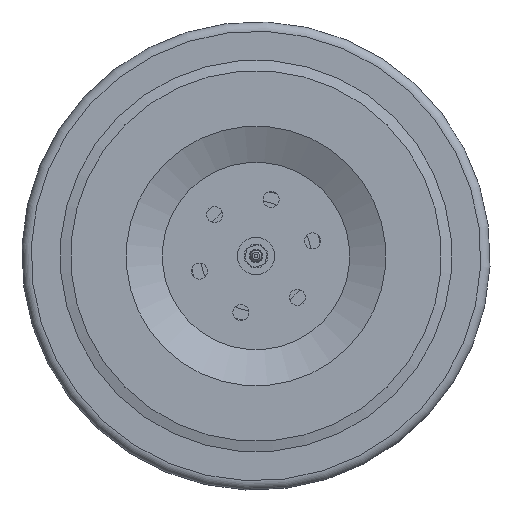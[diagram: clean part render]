
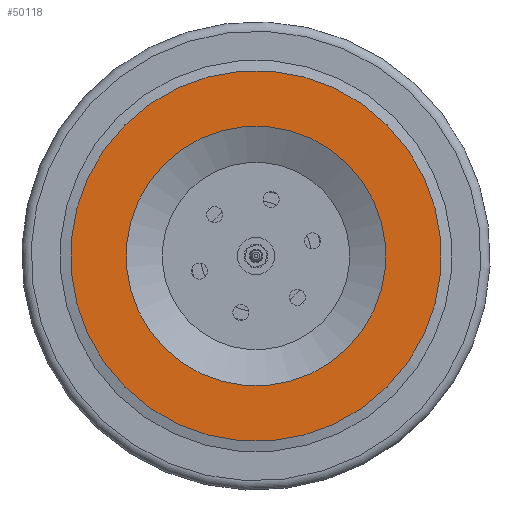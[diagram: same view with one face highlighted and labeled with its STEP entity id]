
A CAD part, left-side view. The second image highlights one B-rep face of the part: STEP entity #50118.
In plain terms, the highlighted planar face has unit normal (-1, 0, 0).
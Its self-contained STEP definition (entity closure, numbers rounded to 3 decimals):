
#1463=FACE_BOUND('',#8137,.T.);
#2889=PLANE('',#55181);
#5389=FACE_OUTER_BOUND('',#8136,.T.);
#8136=EDGE_LOOP('',(#44342));
#8137=EDGE_LOOP('',(#44343));
#18273=CIRCLE('',#55180,69.301);
#18274=CIRCLE('',#55182,98.902);
#22851=VERTEX_POINT('',#91640);
#22852=VERTEX_POINT('',#91644);
#30019=EDGE_CURVE('',#22851,#22851,#18273,.T.);
#30020=EDGE_CURVE('',#22852,#22852,#18274,.T.);
#44342=ORIENTED_EDGE('',*,*,#30020,.F.);
#44343=ORIENTED_EDGE('',*,*,#30019,.T.);
#50118=ADVANCED_FACE('',(#5389,#1463),#2889,.T.);
#55180=AXIS2_PLACEMENT_3D('',#91642,#69035,#69036);
#55181=AXIS2_PLACEMENT_3D('',#91643,#69037,#69038);
#55182=AXIS2_PLACEMENT_3D('',#91645,#69039,#69040);
#69035=DIRECTION('center_axis',(1.,0.,0.));
#69036=DIRECTION('ref_axis',(0.,-0.966,-0.259));
#69037=DIRECTION('center_axis',(-1.,0.,0.));
#69038=DIRECTION('ref_axis',(0.,0.966,0.259));
#69039=DIRECTION('center_axis',(1.,0.,0.));
#69040=DIRECTION('ref_axis',(0.,-0.966,-0.259));
#91640=CARTESIAN_POINT('',(-21.5,-17.936,66.939));
#91642=CARTESIAN_POINT('Origin',(-21.5,0.,0.));
#91643=CARTESIAN_POINT('Origin',(-21.5,25.598,-95.532));
#91644=CARTESIAN_POINT('',(-21.5,-25.598,95.532));
#91645=CARTESIAN_POINT('Origin',(-21.5,0.,0.));
